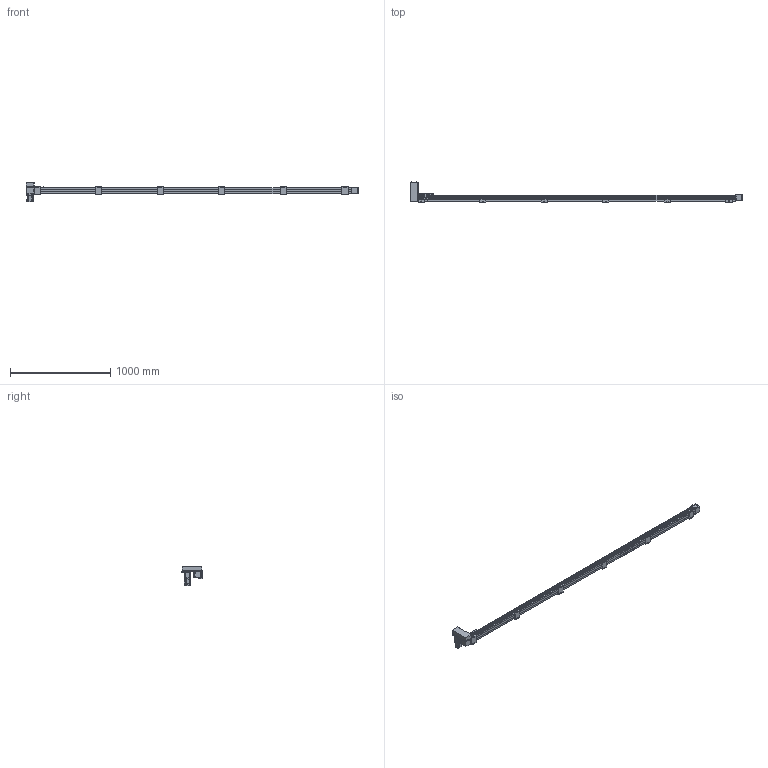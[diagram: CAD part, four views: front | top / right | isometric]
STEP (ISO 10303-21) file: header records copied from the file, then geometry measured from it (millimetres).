
FILE_DESCRIPTION(/* description */ ('STEP AP214'),/* implementation_level */ '2;1');
FILE_NAME(/* name */ 'SK60-P13-S3000-RU-T40-C1-N(0)',/* time_stamp */ '2023-04-06T05:06:05+02:00',/* author */ ('License CC BY-ND 4.0'),/* organization */ ('CADENAS'),/* preprocessor_version */ 'ST-DEVELOPER v19.3',/* originating_system */ 'PARTsolutions',/* authorisation */ ' ');
FILE_SCHEMA (('AUTOMOTIVE_DESIGN {1 0 10303 214 3 1 1}'));
Length unit declared in the file: millimetre
Products named in the file (10): SK60-P13-S3000-RU-T40-C1-N(0); PSC140-sensor; SK60-S450_seat; SK60-S450-BL-C1_slider; SK60_body3; SK60_body6; SK60-BL_body2; T40-p1; SK60-RU_fb; SK60-S3000-RU-C1_body
Assembly tree (20 placements, depth 2):
  SK60-P13-S3000-RU-T40-C1-N(0)
    PSC140-sensor  x3
    SK60-S450_seat  x6
    SK60-S450-BL-C1_slider
    SK60_body3  x3
    SK60_body6  x2
    SK60-BL_body2  x2
    T40-p1
    SK60-RU_fb
    SK60-S3000-RU-C1_body
Bounding box: 3305.5 x 201 x 189.7 mm (x, y, z)
Volume: 12390566.9 mm3; surface area: 1442235.2 mm2
Topology: 20 solids, 20 shells, 986 faces, 2440 edges, 1605 vertices
Faces by surface type: plane 620, cylinder 326, cone 38, torus 2
Full cylindrical faces by diameter (mm): 2.8 x3, 3.3 x4, 4 x2, 4.5 x30, 4.6 x3, 4.917 x32, 5 x6, 5.478 x4, 5.5 x35, 6.5 x12, 7 x2, 8 x4, 8.5 x4, 9.988 x4, 10 x24, 14 x1, 47 x3, 50 x2
Entity records: 18687 total; most frequent: DIRECTION 3192, CARTESIAN_POINT 3154, ORIENTED_EDGE 2940, EDGE_CURVE 1470, AXIS2_PLACEMENT_3D 1072, LINE 1048, VECTOR 1048, VERTEX_POINT 1034
